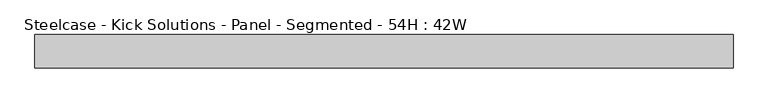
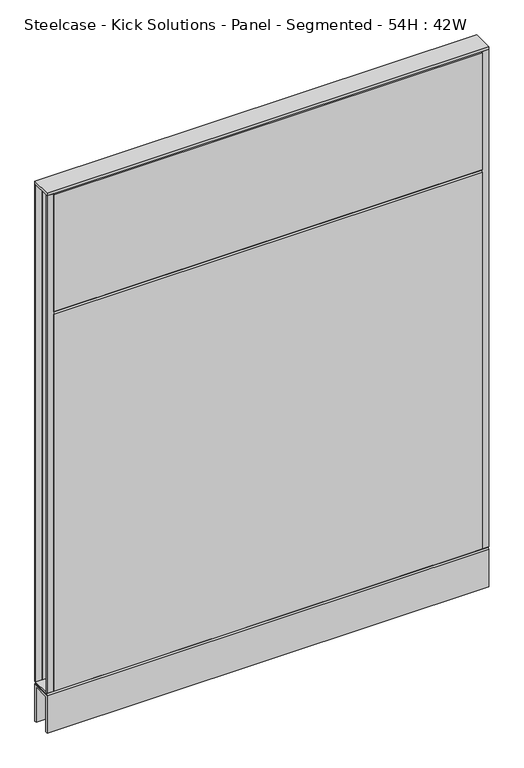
"""IFC4 building model written with IfcOpenShell, lengths in millimetres: furniture geometry, Steelcase - Kick Solutions - Panel - Segmented - 54H : 42W."""

from ifc_helpers import new_model, si_unit, frame, origin, place, context, project, spatial, polyline, outline, extrude, source, transform, mapped, element, save


def steelcase_kick_solutions_panel_segmented_54h_42w_6039869d(model_context):
    return source(origin(), model_context, "Body", "SweptSolid", [
        extrude(outline(polyline([(1.5e-06, 101.600003), (-3.175, 101.600003), (-3.175, 1371.6), (1.5e-06, 1368.5188448), (1.5e-06, 101.600003)])), frame((15.8749996, 0.0, 0.0), z_axis=(1.0, 0.0, 0.0), x_axis=(0.0, 1.0, 0.0)), (0.0, 0.0, 1.0), 1035.0500008),
        extrude(outline(polyline([(-50.8000015, 1069.8811552), (-50.8000015, 1368.5188448), (-47.625, 1371.6), (-47.625, 1066.8), (-50.8000015, 1069.8811552)])), frame((15.8749996, 0.0, 0.0), z_axis=(1.0, 0.0, 0.0), x_axis=(0.0, 1.0, 0.0)), (0.0, 0.0, 1.0), 1035.0500008),
        extrude(outline(polyline([(-50.8000015, 101.600003), (-50.8000015, 1063.7188448), (-47.625, 1066.8), (-47.625, 101.600003), (-50.8000015, 101.600003)])), frame((15.8749996, 0.0, 0.0), z_axis=(1.0, 0.0, 0.0), x_axis=(0.0, 1.0, 0.0)), (0.0, 0.0, 1.0), 1035.0500008),
        extrude(outline(polyline([(1066.8, -3.1750015), (1050.9250004, -3.1750015), (1050.9250004, 0.0), (1066.8, 0.0), (1066.8, -3.1750015)])), frame((0.0, 0.0, 101.7169049), z_axis=(0.0, 0.0, 1.0), x_axis=(1.0, 0.0, 0.0)), (0.0, 0.0, 1.0), 1269.999997),
        extrude(outline(polyline([(15.8749996, -50.8000015), (0.0, -50.8000015), (0.0, -47.625), (15.8749996, -47.625), (15.8749996, -50.8000015)])), frame((0.0, 0.0, 101.7169049), z_axis=(0.0, 0.0, 1.0), x_axis=(1.0, 0.0, 0.0)), (0.0, 0.0, 1.0), 1269.999997),
        extrude(outline(polyline([(-50.7995075, 101.7169049), (-0.000494, 101.7169049), (-3.0583512, 98.5421458), (-47.7416503, 98.5421458), (-50.7995075, 101.7169049)])), frame((0.0, 0.0, 0.0), z_axis=(1.0, 0.0, 0.0), x_axis=(0.0, 1.0, 0.0)), (0.0, 0.0, 1.0), 1066.8),
        extrude(outline(polyline([(1066.8, 0.0), (1066.8, -50.8000015), (0.0, -50.8000015), (0.0, 0.0), (1066.8, 0.0)])), frame((0.0, 0.0, 1371.7169018), z_axis=(0.0, 0.0, 1.0), x_axis=(1.0, 0.0, 0.0)), (0.0, 0.0, 1.0), 6.35),
        extrude(outline(polyline([(15.8749996, -3.1750015), (0.0, -3.1750015), (0.0, 0.0), (15.8749996, 0.0), (15.8749996, -3.1750015)])), frame((0.0, 0.0, 101.7169049), z_axis=(0.0, 0.0, 1.0), x_axis=(1.0, 0.0, 0.0)), (0.0, 0.0, 1.0), 1269.999997),
        extrude(outline(polyline([(1066.8, -50.8000015), (1050.9250004, -50.8000015), (1050.9250004, -47.625), (1066.8, -47.625), (1066.8, -50.8000015)])), frame((0.0, 0.0, 101.7169049), z_axis=(0.0, 0.0, 1.0), x_axis=(1.0, 0.0, 0.0)), (0.0, 0.0, 1.0), 1269.999997),
        extrude(outline(polyline([(-50.8000015, 95.3668927), (-47.6247484, 98.5421458), (-3.1752531, 98.5421458), (0.0, 95.3668927), (-50.8000015, 95.3668927)])), frame((0.0, 0.0, 0.0), z_axis=(1.0, 0.0, 0.0), x_axis=(0.0, 1.0, 0.0)), (0.0, 0.0, 1.0), 1066.8),
        extrude(outline(polyline([(0.0, 0.0), (-5.08, 0.0), (-5.08, 90.2869018), (-45.7200015, 90.2869018), (-45.7200015, 0.0), (-50.8000015, 0.0), (-50.8000015, 95.3669018), (0.0, 95.3669018), (0.0, 0.0)])), frame((0.0, 0.0, 0.0), z_axis=(1.0, 0.0, 0.0), x_axis=(0.0, 1.0, 0.0)), (0.0, 0.0, 1.0), 1066.8),
    ])


if __name__ == "__main__":
    model = new_model("IFC4")
    model_context = context("Model", 3, world=origin())
    ifc_project = project(units=[si_unit("LENGTHUNIT", "METRE", prefix="MILLI")], contexts=[model_context])
    site = spatial("IfcSite", under=ifc_project)
    building = spatial("IfcBuilding", under=site)
    placement = place(None, origin())
    steelcase_kick_solutions_panel_segmented_54h_42w_shape = steelcase_kick_solutions_panel_segmented_54h_42w_6039869d(model_context)
    element("IfcFurniture", 1, ObjectType="Steelcase - Kick Solutions - Panel - Segmented - 54H : 42W", at=placement, inside=building, context=model_context, shape_type="MappedRepresentation", body=[
        mapped(steelcase_kick_solutions_panel_segmented_54h_42w_shape, transform((0.0, 0.0, 0.0), x_axis=(1.0, 0.0, 0.0), y_axis=(0.0, 1.0, 0.0), z_axis=(0.0, 0.0, 1.0))),
    ])
    save(model, "model.ifc")
